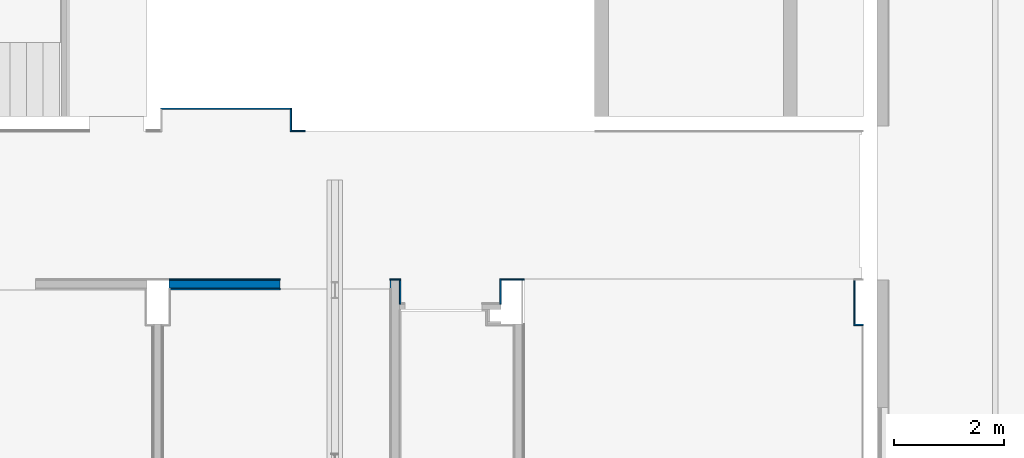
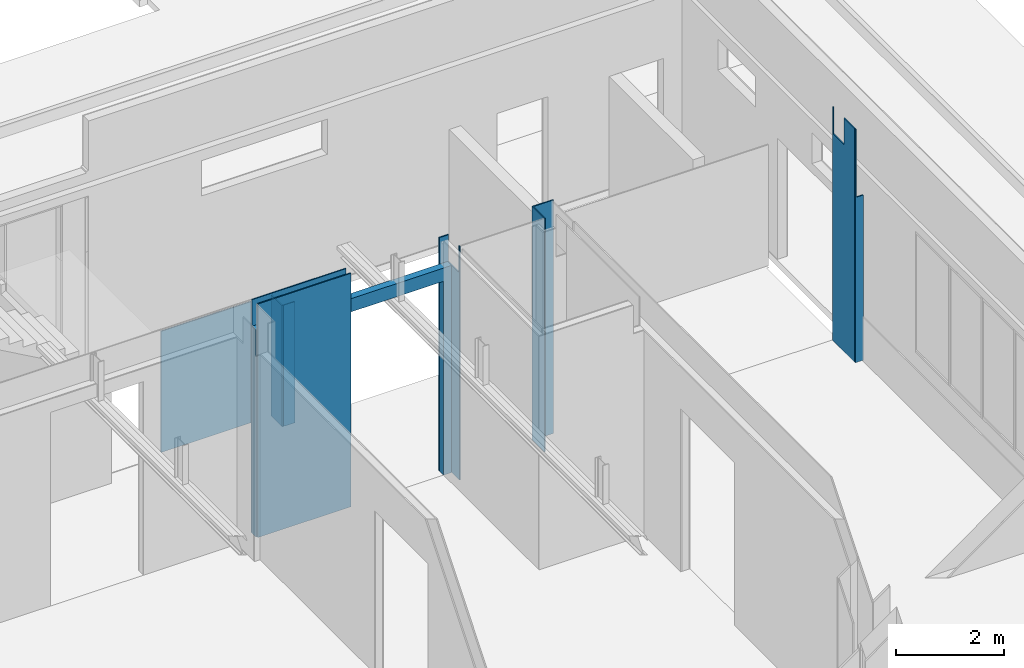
# One storey, part 17 of 27: 12 walls, 1 opening.
"""IFC2X3 building model written with IfcOpenShell, lengths in centimetres."""

import ifcopenshell
import ifcopenshell.guid

model = None  # the IFC model being written
_history = None  # IfcOwnerHistory: only IFC2X3 demands one
_inside = {}  # id of a spatial element -> (the spatial element, [elements in it])
_under = {}  # id of a project, library or spatial element -> (it, [spatial elements below it])
_declared = {}  # id of a project -> (the project, [libraries it declares])
_typed = {}  # id of a type object -> (the type object, [elements of that type])
_made_of = {}  # id of a material, layer set ... -> (it, [elements and type objects made of it])


def new_model(schema):
    """Start an empty IFC model of exactly this schema.

    Asked for "IFC4X3", IfcOpenShell would pick the latest addendum, in which some entities
    have other attributes; the version numbers below select the first issue.
    IFC2X3 requires an IfcOwnerHistory on every rooted entity: one is made here for all.
    """
    global model, _history
    if schema == "IFC4X3":
        model = ifcopenshell.file(schema_version=(4, 3, 0, 0))
    else:
        model = ifcopenshell.file(schema=schema)
    _inside.clear()
    _under.clear()
    _declared.clear()
    _typed.clear()
    _made_of.clear()
    _history = None
    if model.schema == "IFC2X3":
        org = make("IfcOrganization", Name="unknown")
        user = make(
            "IfcPersonAndOrganization",
            ThePerson=make("IfcPerson", FamilyName="unknown"),
            TheOrganization=org,
        )
        app = make(
            "IfcApplication",
            ApplicationDeveloper=org,
            Version="unknown",
            ApplicationFullName="unknown",
            ApplicationIdentifier="unknown",
        )
        _history = make(
            "IfcOwnerHistory",
            OwningUser=user,
            OwningApplication=app,
            ChangeAction="ADDED",
            CreationDate=0,
        )
    return model


def make(cls, **values):
    """One entity of the class cls with the attributes given. An attribute that is None is left unset."""
    return model.create_entity(
        cls, **{name: value for name, value in values.items() if value is not None}
    )


def entity(cls, *values):
    """Any entity or typed value of the class cls, its attributes in the order of the schema. None: left unset."""
    e = model.create_entity(cls)
    for i, value in enumerate(values):
        if value is not None:
            e[i] = value
    return e


def rooted(cls, **values):
    """An entity with a GlobalId (a new one), such as an element, a storey or a relation."""
    return make(cls, GlobalId=ifcopenshell.guid.new(), OwnerHistory=_history, **values)


def si_unit(unit_type, name, prefix=None):
    """IfcSIUnit, for example si_unit("LENGTHUNIT", "METRE", prefix="MILLI")."""
    return make("IfcSIUnit", UnitType=unit_type, Prefix=prefix, Name=name)


def converted_unit(unit_type, name, factor, base, dimensions=None, offset=None):
    """IfcConversionBasedUnit, such as the inch: factor (a typed value) times the base unit."""
    return make(
        "IfcConversionBasedUnit"
        if offset is None
        else "IfcConversionBasedUnitWithOffset",
        ConversionOffset=offset,
        Dimensions=None
        if dimensions is None
        else entity("IfcDimensionalExponents", *dimensions),
        UnitType=unit_type,
        Name=name,
        ConversionFactor=make(
            "IfcMeasureWithUnit", ValueComponent=factor, UnitComponent=base
        ),
    )


def derived_unit(unit_type, elements):
    """IfcDerivedUnit: a product of units, each with its exponent."""
    return make(
        "IfcDerivedUnit",
        Elements=[
            make("IfcDerivedUnitElement", Unit=unit, Exponent=power)
            for unit, power in elements
        ],
        UnitType=unit_type,
    )


def assignment(units):
    """IfcUnitAssignment: the units of a project."""
    return None if units is None else make("IfcUnitAssignment", Units=units)


def point(xyz):
    """IfcCartesianPoint."""
    return None if xyz is None else make("IfcCartesianPoint", Coordinates=xyz)


def direction(xyz):
    """IfcDirection."""
    return None if xyz is None else make("IfcDirection", DirectionRatios=xyz)


def frame(location, z_axis=None, x_axis=None):
    """IfcAxis2Placement3D, a coordinate frame: its origin and axes. An axis left out is left unset."""
    return make(
        "IfcAxis2Placement3D",
        Location=point(location),
        Axis=direction(z_axis),
        RefDirection=direction(x_axis),
    )


def frame_2d(location, x_axis=None):
    """IfcAxis2Placement2D, a coordinate frame in the plane: its origin and x axis."""
    return make(
        "IfcAxis2Placement2D", Location=point(location), RefDirection=direction(x_axis)
    )


def origin():
    """The frame at (0, 0, 0) with its axes left unset."""
    return frame((0.0, 0.0, 0.0))


def place(relative_to, where):
    """IfcLocalPlacement: puts the frame where relative to a parent placement (None: the world)."""
    return make(
        "IfcLocalPlacement", PlacementRelTo=relative_to, RelativePlacement=where
    )


def context(
    kind, dimensions, precision=None, world=None, true_north=None, identifier=None
):
    """IfcGeometricRepresentationContext, for example the 3D "Model" context."""
    return make(
        "IfcGeometricRepresentationContext",
        ContextIdentifier=identifier,
        ContextType=kind,
        CoordinateSpaceDimension=dimensions,
        Precision=precision,
        WorldCoordinateSystem=world,
        TrueNorth=true_north,
    )


def subcontext(parent, identifier, kind, view, scale=None):
    """IfcGeometricRepresentationSubContext, for example "Body" below "Model"."""
    return make(
        "IfcGeometricRepresentationSubContext",
        ContextIdentifier=identifier,
        ContextType=kind,
        ParentContext=parent,
        TargetScale=scale,
        TargetView=view,
    )


def project(units=None, contexts=None):
    """IfcProject with its units and contexts."""
    return rooted(
        "IfcProject",
        Name="project",
        RepresentationContexts=contexts,
        UnitsInContext=assignment(units),
    )


def spatial(cls, under=None, at=None, **own):
    """A site, building, storey or space (cls), placed at a placement, below another one or the project."""
    s = rooted(cls, ObjectPlacement=at, **own)
    if under is not None:
        _under.setdefault(under.id(), (under, []))[1].append(s)
    return s


def polyline(points):
    """IfcPolyline through the points."""
    return make("IfcPolyline", Points=[point(p) for p in points])


def profile(cls, at=None, kind="AREA", **sizes):
    """A parametric profile (cls). Its sizes go by their IFC names, for example OverallWidth=200.0."""
    return make(cls, ProfileType=kind, Position=at, **sizes)


def rectangle(**sizes):
    """IfcRectangleProfileDef."""
    return profile("IfcRectangleProfileDef", **sizes)


def extrude(swept, where, along, depth):
    """IfcExtrudedAreaSolid: the profile swept, set in the frame where, extruded along a direction by depth."""
    return make(
        "IfcExtrudedAreaSolid",
        SweptArea=swept,
        Position=where,
        ExtrudedDirection=direction(along),
        Depth=depth,
    )


def clip(a, b, op="DIFFERENCE"):
    """IfcBooleanClippingResult: the solid a cut by the half space b."""
    return make(
        "IfcBooleanClippingResult", Operator=op, FirstOperand=a, SecondOperand=b
    )


def bounded_halfspace(plane, agree, where, boundary):
    """IfcPolygonalBoundedHalfSpace: a half space limited to a polygon's prism."""
    return make(
        "IfcPolygonalBoundedHalfSpace",
        BaseSurface=make("IfcPlane", Position=plane),
        AgreementFlag=agree,
        Position=where,
        PolygonalBoundary=boundary,
    )


def shape(context_of_items, identifier, shape_type, items):
    """IfcShapeRepresentation: the items that make up one representation, for example the "Body"."""
    return make(
        "IfcShapeRepresentation",
        ContextOfItems=context_of_items,
        RepresentationIdentifier=identifier,
        RepresentationType=shape_type,
        Items=items,
    )


def material(Name=None, Category=None):
    """IfcMaterial."""
    return make("IfcMaterial", Name=Name, Category=Category)


def layer(
    of_material, thickness, ventilated=None, Name=None, Category=None, Priority=None
):
    """IfcMaterialLayer: one layer of a wall or slab, of a material (None: an air gap)."""
    return make(
        "IfcMaterialLayer",
        Material=of_material,
        LayerThickness=thickness,
        IsVentilated=ventilated,
        Name=Name,
        Category=Category,
        Priority=Priority,
    )


def layer_set(layers, Name=None):
    """IfcMaterialLayerSet."""
    return make("IfcMaterialLayerSet", MaterialLayers=layers, LayerSetName=Name)


def layer_usage(for_layer_set, set_direction, sense, offset, extent=None):
    """IfcMaterialLayerSetUsage: how a layer set lies in its element."""
    return make(
        "IfcMaterialLayerSetUsage",
        ForLayerSet=for_layer_set,
        LayerSetDirection=set_direction,
        DirectionSense=sense,
        OffsetFromReferenceLine=offset,
        ReferenceExtent=extent,
    )


def made_of(thing, what):
    """Note that an element or type object is made of a material, layer set ...; save() writes the relation."""
    if what is not None:
        _made_of.setdefault(what.id(), (what, []))[1].append(thing)
    return thing


def type_object(cls, material=None, **own):
    """A type object (cls), such as IfcWallType, which elements share."""
    return made_of(rooted(cls, **own), material)


def element(
    cls,
    number,
    at=None,
    inside=None,
    cuts=None,
    type_object=None,
    material=None,
    context=None,
    identifier="Body",
    shape_type=None,
    held_by="IfcProductDefinitionShape",
    body=None,
    shapes=None,
    **own,
):
    """One element of the class cls, such as IfcWall. Its Tag is "e" and its number.

    at: its placement. inside: the storey or other place that contains it. cuts: it is an
    opening in that element (IfcRelVoidsElement). A single representation is given by context,
    identifier, shape_type and body (its items); several are given by shapes. held_by: the class
    of the entity that holds the representations. save() writes the other relations.
    """
    e = rooted(cls, Tag="e%d" % number, ObjectPlacement=at, **own)
    if body is not None:
        shapes = [shape(context, identifier, shape_type, body)]
    if shapes is not None:
        e.Representation = make(held_by, Representations=shapes)
    if inside is not None:
        _inside.setdefault(inside.id(), (inside, []))[1].append(e)
    if cuts is not None:
        rooted(
            "IfcRelVoidsElement", RelatingBuildingElement=cuts, RelatedOpeningElement=e
        )
    if type_object is not None:
        _typed.setdefault(type_object.id(), (type_object, []))[1].append(e)
    return made_of(e, material)


def aggregate(whole, parts):
    """IfcRelAggregates: a whole, such as a stair, and the parts it consists of."""
    return rooted("IfcRelAggregates", RelatingObject=whole, RelatedObjects=parts)


def save(model, path):
    """Write the relations noted so far, then the file.

    IfcRelAggregates (storeys below a building ...), IfcRelContainedInSpatialStructure (elements
    in a storey), IfcRelDefinesByType, IfcRelAssociatesMaterial and IfcRelDeclares: one each for
    every whole, place, type object, material and project.
    """
    for whole, parts in _under.values():
        aggregate(whole, parts)
    for where, things in _inside.values():
        rooted(
            "IfcRelContainedInSpatialStructure",
            RelatedElements=things,
            RelatingStructure=where,
        )
    for kind, things in _typed.values():
        rooted("IfcRelDefinesByType", RelatedObjects=things, RelatingType=kind)
    for what, things in _made_of.values():
        rooted("IfcRelAssociatesMaterial", RelatedObjects=things, RelatingMaterial=what)
    for by, libraries in _declared.values():
        rooted("IfcRelDeclares", RelatingContext=by, RelatedDefinitions=libraries)
    model.write(path)


model = new_model("IFC2X3")

# Units and contexts
model_context = context("Model", 3, precision=0.001, world=origin(), true_north=direction((6.12303176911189e-17, 1.0)))
body_context = subcontext(model_context, "Body", "Model", "MODEL_VIEW")
ifc_project = project(units=[si_unit("LENGTHUNIT", "METRE", prefix="CENTI"), si_unit("AREAUNIT", "SQUARE_METRE"), si_unit("VOLUMEUNIT", "CUBIC_METRE"), converted_unit("PLANEANGLEUNIT", "DEGREE", entity("IfcRatioMeasure", 0.0174532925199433), si_unit("PLANEANGLEUNIT", "RADIAN"), dimensions=[0, 0, 0, 0, 0, 0, 0]), si_unit("MASSUNIT", "GRAM", prefix="KILO"), derived_unit("MASSDENSITYUNIT", [(si_unit("MASSUNIT", "GRAM", prefix="KILO"), 1), (si_unit("LENGTHUNIT", "METRE"), -3)]), derived_unit("MOMENTOFINERTIAUNIT", [(si_unit("LENGTHUNIT", "METRE"), 4)]), si_unit("TIMEUNIT", "SECOND"), si_unit("FREQUENCYUNIT", "HERTZ"), si_unit("THERMODYNAMICTEMPERATUREUNIT", "DEGREE_CELSIUS"), derived_unit("THERMALTRANSMITTANCEUNIT", [(si_unit("MASSUNIT", "GRAM", prefix="KILO"), 1), (si_unit("THERMODYNAMICTEMPERATUREUNIT", "KELVIN"), -1), (si_unit("TIMEUNIT", "SECOND"), -3)]), derived_unit("VOLUMETRICFLOWRATEUNIT", [(si_unit("LENGTHUNIT", "METRE"), 3), (si_unit("TIMEUNIT", "SECOND"), -1)]), si_unit("ELECTRICCURRENTUNIT", "AMPERE"), si_unit("ELECTRICVOLTAGEUNIT", "VOLT"), si_unit("POWERUNIT", "WATT"), si_unit("FORCEUNIT", "NEWTON", prefix="KILO"), si_unit("ILLUMINANCEUNIT", "LUX"), si_unit("LUMINOUSFLUXUNIT", "LUMEN"), si_unit("LUMINOUSINTENSITYUNIT", "CANDELA"), derived_unit("USERDEFINED", [(si_unit("MASSUNIT", "GRAM", prefix="KILO"), -1), (si_unit("LENGTHUNIT", "METRE"), -2), (si_unit("TIMEUNIT", "SECOND"), 3), (si_unit("LUMINOUSFLUXUNIT", "LUMEN"), 1)]), derived_unit("LINEARVELOCITYUNIT", [(si_unit("LENGTHUNIT", "METRE"), 1), (si_unit("TIMEUNIT", "SECOND"), -1)]), si_unit("PRESSUREUNIT", "PASCAL"), derived_unit("USERDEFINED", [(si_unit("LENGTHUNIT", "METRE"), -2), (si_unit("MASSUNIT", "GRAM", prefix="KILO"), 1), (si_unit("TIMEUNIT", "SECOND"), -2)]), derived_unit("LINEARFORCEUNIT", [(si_unit("MASSUNIT", "GRAM", prefix="KILO"), 1), (si_unit("LENGTHUNIT", "METRE"), 1), (si_unit("TIMEUNIT", "SECOND"), -2), (si_unit("LENGTHUNIT", "METRE"), -1)]), derived_unit("PLANARFORCEUNIT", [(si_unit("MASSUNIT", "GRAM", prefix="KILO"), 1), (si_unit("LENGTHUNIT", "METRE"), 1), (si_unit("TIMEUNIT", "SECOND"), -2), (si_unit("LENGTHUNIT", "METRE"), -2)])], contexts=[model_context])

# Site, building, storey
site_placement = place(None, origin())
site = spatial("IfcSite", under=ifc_project, at=site_placement, Name="Default", CompositionType="ELEMENT")
building_placement = place(site_placement, origin())
building = spatial("IfcBuilding", under=site, at=building_placement, CompositionType="ELEMENT")
storey_placement = place(building_placement, origin())
storey = spatial("IfcBuildingStorey", under=building, at=storey_placement, Name="Poziom 0 A +/-0,00", CompositionType="ELEMENT", Elevation=3.38570427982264e-11)

# Wall, opening
ifc_material_1 = material(Name="Wełna skalna")
ifc_layer_1 = layer(ifc_material_1, 15.0)
ifc_layer_set_1 = layer_set([ifc_layer_1], Name="Ściana podstawowa:Ściana GK rdzeń gr. 15cm")
ifc_layer_usage_1 = layer_usage(ifc_layer_set_1, "AXIS2", "NEGATIVE", 7.5)
wall_type_1 = type_object("IfcWallType", Name="Ściana podstawowa:Ściana GK rdzeń gr. 15cm", PredefinedType="STANDARD", material=ifc_layer_set_1)
wall_1_placement = place(storey_placement, frame((-314.265109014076, 1462.62745208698, 0.0)))
wall_1 = element("IfcWallStandardCase", 1, at=wall_1_placement, inside=storey, type_object=wall_type_1, material=ifc_layer_usage_1, Name="Ściana podstawowa:Ściana GK rdzeń gr. 15cm", ObjectType="Ściana podstawowa:Ściana GK rdzeń gr. 15cm", context=body_context, shape_type="SweptSolid", body=[
    extrude(rectangle(XDim=419.999989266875, YDim=15.0000000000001, at=frame_2d((209.999994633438, 0.0), x_axis=(-1.0, 0.0))), origin(), (0.0, 0.0, 1.0), 469.999999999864),
])
opening_placement = place(wall_1_placement, origin())
element("IfcOpeningElement", 2, at=opening_placement, cuts=wall_1, Name="Ściana podstawowa:Ściana GK rdzeń gr. 15cm", ObjectType="Opening", context=body_context, shape_type="SweptSolid", body=[
    extrude(rectangle(XDim=440.0, YDim=200.0, at=frame_2d((0.0, 0.0), x_axis=(0.0, 1.0))), frame((302.499989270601, -159.9, 220.0), z_axis=(0.0, 1.0, 0.0), x_axis=(1.0, 0.0, 0.0)), (0.0, 0.0, 1.0), 304.8),
])

# Walls
ifc_material_2 = material(Name="Tynk gipsowy")
ifc_layer_2 = layer(ifc_material_2, 2.5)
ifc_layer_set_2 = layer_set([ifc_layer_2], Name="Ściana podstawowa:Ściana GK wykonczenie gr. 2,5cm")
ifc_layer_usage_2 = layer_usage(ifc_layer_set_2, "AXIS2", "NEGATIVE", 1.25)
wall_type_2 = type_object("IfcWallType", Name="Ściana podstawowa:Ściana GK wykonczenie gr. 2,5cm", PredefinedType="STANDARD", material=ifc_layer_set_2)
wall_2_placement = place(storey_placement, frame((-314.265109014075, 1471.37745208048, 0.0)))
element("IfcWallStandardCase", 3, at=wall_2_placement, inside=storey, type_object=wall_type_2, material=ifc_layer_usage_2, Name="Ściana podstawowa:Ściana GK wykonczenie gr. 2,5cm", ObjectType="Ściana podstawowa:Ściana GK wykonczenie gr. 2,5cm", context=body_context, shape_type="SweptSolid", body=[
    extrude(rectangle(XDim=202.500010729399, YDim=2.49999999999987, at=frame_2d((101.2500053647, 1.4432899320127e-15), x_axis=(-1.0, 0.0))), origin(), (0.0, 0.0, 1.0), 529.999999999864),
])
ifc_layer_usage_3 = layer_usage(ifc_layer_set_2, "AXIS2", "NEGATIVE", 1.25)
wall_3_placement = place(storey_placement, frame((-311.765119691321, 1453.87745203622, 0.0)))
element("IfcWallStandardCase", 4, at=wall_3_placement, inside=storey, type_object=wall_type_2, material=ifc_layer_usage_3, Name="Ściana podstawowa:Ściana GK wykonczenie gr. 2,5cm", ObjectType="Ściana podstawowa:Ściana GK wykonczenie gr. 2,5cm", context=body_context, shape_type="SweptSolid", body=[
    extrude(rectangle(XDim=200.000021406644, YDim=2.49999999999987, at=frame_2d((100.000010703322, -2.55351295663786e-15), x_axis=(-1.0, 0.0))), origin(), (0.0, 0.0, 1.0), 529.999999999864),
])
ifc_layer_usage_4 = layer_usage(ifc_layer_set_2, "AXIS2", "NEGATIVE", 1.25)
wall_4_placement = place(storey_placement, frame((88.2348802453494, 1471.37745213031, 0.0)))
element("IfcWallStandardCase", 5, at=wall_4_placement, inside=storey, type_object=wall_type_2, material=ifc_layer_usage_4, Name="Ściana podstawowa:Ściana GK wykonczenie gr. 2,5cm", ObjectType="Ściana podstawowa:Ściana GK wykonczenie gr. 2,5cm", context=body_context, shape_type="SweptSolid", body=[
    extrude(rectangle(XDim=19.9999986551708, YDim=2.49999999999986, at=frame_2d((9.99999932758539, 0.0), x_axis=(-1.0, 0.0))), origin(), (0.0, 0.0, 1.0), 529.999999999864),
])
ifc_layer_usage_5 = layer_usage(ifc_layer_set_2, "AXIS2", "NEGATIVE", 1.25)
wall_5_placement = place(storey_placement, frame((106.98487890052, 1472.62745213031, 0.0), z_axis=(0.0, 0.0, 1.0), x_axis=(0.0, -1.0, 0.0)))
element("IfcWallStandardCase", 6, at=wall_5_placement, inside=storey, type_object=wall_type_2, material=ifc_layer_usage_5, Name="Ściana podstawowa:Ściana GK wykonczenie gr. 2,5cm", ObjectType="Ściana podstawowa:Ściana GK wykonczenie gr. 2,5cm", context=body_context, shape_type="Clipping", body=[
    clip(extrude(rectangle(XDim=45.9999999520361, YDim=2.5, at=frame_2d((22.999999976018, 0.0), x_axis=(-1.0, 0.0))), origin(), (0.0, 0.0, 1.0), 529.999999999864), bounded_halfspace(frame((2.50000004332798, 1.24999999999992, 470.0)), False, frame((2.50000004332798, 1.24999999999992, 470.0)), polyline([(0.0, 0.0), (0.0, -2.49999999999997), (40.0, -2.49999999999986), (40.0, 0.0), (0.0, 0.0)]))),
])
ifc_layer_3 = layer(ifc_material_2, 2.5)
ifc_layer_set_3 = layer_set([ifc_layer_3], Name="Ściana podstawowa:Tynk wykończenie gr. 2,5cm")
ifc_layer_usage_6 = layer_usage(ifc_layer_set_3, "AXIS2", "POSITIVE", -1.25)
wall_type_3 = type_object("IfcWallType", Name="Ściana podstawowa:Tynk wykończenie gr. 2,5cm", PredefinedType="STANDARD", material=ifc_layer_set_3)
wall_6_placement = place(storey_placement, frame((950.734897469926, 1388.87745208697, 0.0), z_axis=(0.0, 0.0, 1.0), x_axis=(-1.0, 0.0, 0.0)))
element("IfcWallStandardCase", 7, at=wall_6_placement, inside=storey, type_object=wall_type_3, material=ifc_layer_usage_6, Name="Ściana podstawowa:Tynk wykończenie gr. 2,5cm", ObjectType="Ściana podstawowa:Tynk wykończenie gr. 2,5cm", context=body_context, shape_type="Clipping", body=[
    clip(clip(extrude(rectangle(XDim=17.5000171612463, YDim=2.49999999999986, at=frame_2d((8.75000858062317, 0.0), x_axis=(-1.0, 0.0))), origin(), (0.0, 0.0, 1.0), 529.999999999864), bounded_halfspace(frame((15.0000064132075, 1.24999999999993, 375.0), z_axis=(-1.0, 0.0, 0.0), x_axis=(0.0, 0.0, -1.0)), False, frame((15.0000064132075, 1.24999999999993, 375.0), z_axis=(-1.0, 0.0, 0.0), x_axis=(0.0, 0.0, -1.0)), polyline([(0.0, 0.0), (0.0, 2.5000000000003), (-155.0, 2.5000000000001), (-155.0, 0.0), (0.0, 0.0)]))), bounded_halfspace(frame((15.0000064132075, -1.25000000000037, 375.0), z_axis=(0.0, 0.0, 1.0), x_axis=(-1.0, 0.0, 0.0)), False, frame((15.0000064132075, -1.25000000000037, 375.0), z_axis=(0.0, 0.0, 1.0), x_axis=(-1.0, 0.0, 0.0)), polyline([(0.0, 0.0), (0.0, -2.5000000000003), (15.0000064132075, -2.50000000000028), (15.0000064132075, 0.0), (0.0, 0.0)]))),
])
ifc_layer_usage_7 = layer_usage(ifc_layer_set_3, "AXIS2", "NEGATIVE", 1.25)
wall_7_placement = place(storey_placement, frame((934.484880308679, 1390.12745208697, 0.0), z_axis=(0.0, 0.0, 1.0), x_axis=(0.0, 1.0, 0.0)))
element("IfcWallStandardCase", 8, at=wall_7_placement, inside=storey, type_object=wall_type_3, material=ifc_layer_usage_7, Name="Ściana podstawowa:Tynk wykończenie gr. 2,5cm", ObjectType="Ściana podstawowa:Tynk wykończenie gr. 2,5cm", context=body_context, shape_type="Clipping", body=[
    clip(extrude(rectangle(XDim=82.5000000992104, YDim=2.50000000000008, at=frame_2d((41.2500000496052, 0.0), x_axis=(-1.0, 0.0))), origin(), (0.0, 0.0, 1.0), 529.999999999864), bounded_halfspace(frame((80.0, -1.24999999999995, 470.0), z_axis=(0.0, 0.0, 1.0), x_axis=(-1.0, 0.0, 0.0)), False, frame((80.0, -1.24999999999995, 470.0), z_axis=(0.0, 0.0, 1.0), x_axis=(-1.0, 0.0, 0.0)), polyline([(0.0, 0.0), (0.0, -2.49999999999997), (40.0, -2.49999999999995), (40.0, 0.0), (0.0, 0.0)]))),
])
ifc_layer_usage_8 = layer_usage(ifc_layer_set_3, "AXIS2", "POSITIVE", -1.25)
wall_8_placement = place(storey_placement, frame((-90.7649889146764, 1782.44219251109, 0.0), z_axis=(0.0, 0.0, 1.0), x_axis=(-1.0, 0.0, 0.0)))
element("IfcWallStandardCase", 9, at=wall_8_placement, inside=storey, type_object=wall_type_3, material=ifc_layer_usage_8, Name="Ściana podstawowa:Tynk wykończenie gr. 2,5cm", ObjectType="Ściana podstawowa:Tynk wykończenie gr. 2,5cm", context=body_context, shape_type="SweptSolid", body=[
    extrude(rectangle(XDim=238.500123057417, YDim=2.49999999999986, at=frame_2d((119.250061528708, 4.44089209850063e-14), x_axis=(-1.0, 0.0))), origin(), (0.0, 0.0, 1.0), 275.0),
])
ifc_layer_usage_9 = layer_usage(ifc_layer_set_3, "AXIS2", "POSITIVE", -1.25)
wall_9_placement = place(storey_placement, frame((-92.0151076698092, 1781.19219251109, 0.0), z_axis=(0.0, 0.0, 1.0), x_axis=(0.0, -1.0, 0.0)))
element("IfcWallStandardCase", 10, at=wall_9_placement, inside=storey, type_object=wall_type_3, material=ifc_layer_usage_9, Name="Ściana podstawowa:Tynk wykończenie gr. 2,5cm", ObjectType="Ściana podstawowa:Tynk wykończenie gr. 2,5cm", context=body_context, shape_type="SweptSolid", body=[
    extrude(rectangle(XDim=40.5647409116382, YDim=2.5, at=frame_2d((20.2823704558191, 0.0), x_axis=(-1.0, 0.0))), origin(), (0.0, 0.0, 1.0), 275.0),
])
ifc_layer_usage_10 = layer_usage(ifc_layer_set_3, "AXIS2", "POSITIVE", -1.25)
wall_10_placement = place(storey_placement, frame((-90.7651076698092, 1741.87745159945, 0.0)))
element("IfcWallStandardCase", 11, at=wall_10_placement, inside=storey, type_object=wall_type_3, material=ifc_layer_usage_10, Name="Ściana podstawowa:Tynk wykończenie gr. 2,5cm", ObjectType="Ściana podstawowa:Tynk wykończenie gr. 2,5cm", context=body_context, shape_type="SweptSolid", body=[
    extrude(rectangle(XDim=25.0001187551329, YDim=2.49999999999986, at=frame_2d((12.5000593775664, 0.0), x_axis=(-1.0, 0.0))), origin(), (0.0, 0.0, 1.0), 275.0),
])
ifc_layer_usage_11 = layer_usage(ifc_layer_set_3, "AXIS2", "POSITIVE", -1.25)
wall_11_placement = place(storey_placement, frame((289.484890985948, 1426.62745217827, 0.0), z_axis=(0.0, 0.0, 1.0), x_axis=(0.0, 1.0, 0.0)))
element("IfcWallStandardCase", 12, at=wall_11_placement, inside=storey, type_object=wall_type_3, material=ifc_layer_usage_11, Name="Ściana podstawowa:Tynk wykończenie gr. 2,5cm", ObjectType="Ściana podstawowa:Tynk wykończenie gr. 2,5cm", context=body_context, shape_type="SweptSolid", body=[
    extrude(rectangle(XDim=45.9999999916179, YDim=2.49999999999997, at=frame_2d((22.9999999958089, 0.0), x_axis=(-1.0, 0.0))), origin(), (0.0, 0.0, 1.0), 529.999999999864),
])
ifc_layer_usage_12 = layer_usage(ifc_layer_set_3, "AXIS2", "NEGATIVE", 1.25)
wall_12_placement = place(storey_placement, frame((290.734890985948, 1471.37745216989, 0.0)))
element("IfcWallStandardCase", 13, at=wall_12_placement, inside=storey, type_object=wall_type_3, material=ifc_layer_usage_12, Name="Ściana podstawowa:Tynk wykończenie gr. 2,5cm", ObjectType="Ściana podstawowa:Tynk wykończenie gr. 2,5cm", context=body_context, shape_type="SweptSolid", body=[
    extrude(rectangle(XDim=42.4999893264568, YDim=2.49999999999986, at=frame_2d((21.2499946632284, 0.0), x_axis=(-1.0, 0.0))), origin(), (0.0, 0.0, 1.0), 529.999999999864),
])

save(model, "model.ifc")
